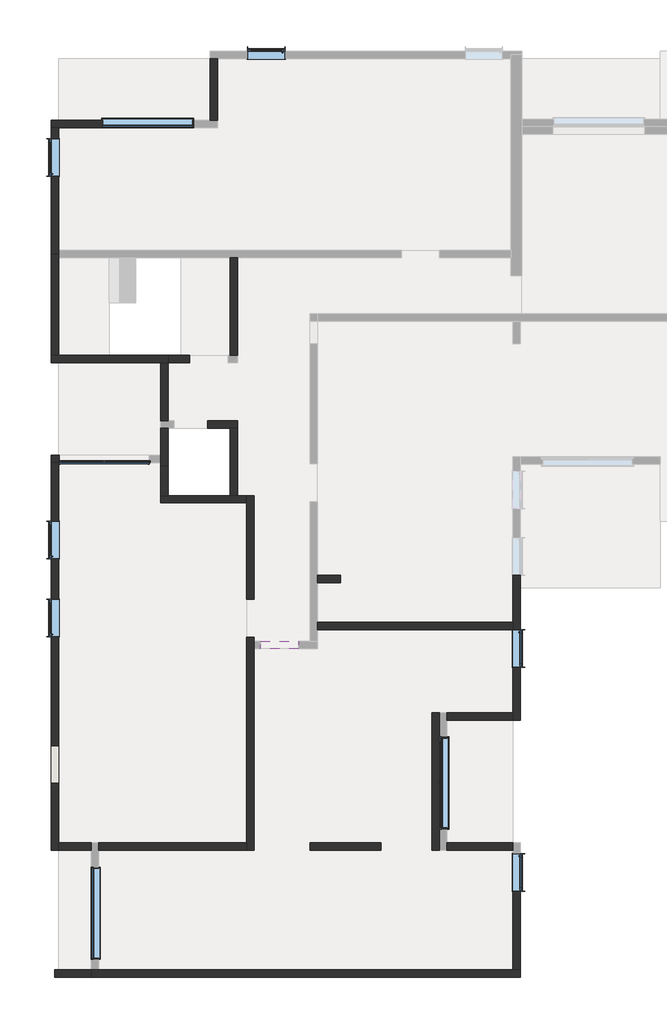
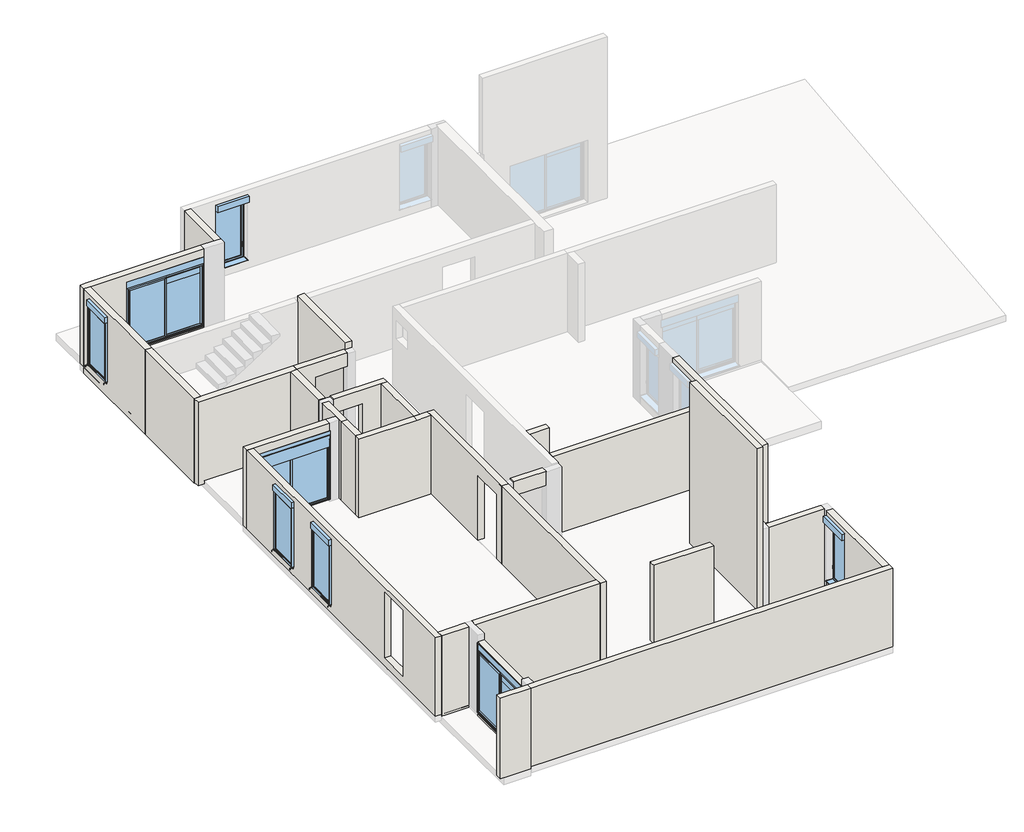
# One storey, part 1 of 3: 31 walls, 10 windows.
"""IFC4 building model written with IfcOpenShell, lengths in millimetres."""

from ifc_helpers import new_model, si_unit, frame, origin, place, context, project, spatial, polyline, outline, extrude, faceted_brep, transform, mapped, element, save
from components import window_b85a0a24, window_200x100_8459d8a5, window_200x100_a15cc3b6, m03_dc1d0546

model = new_model("IFC4")

# Units and contexts
model_context = context("Model", 3, world=origin())
ifc_project = project(units=[si_unit("LENGTHUNIT", "METRE", prefix="MILLI")], contexts=[model_context])

# Site, building, storey
site = spatial("IfcSite", under=ifc_project)
building = spatial("IfcBuilding", under=site)
storey = spatial("IfcBuildingStorey", under=building, Name="06-Plateau 6", Elevation=10400.0)

# Walls
placement = place(None, origin())
element("IfcWall", 1, ObjectType="Voile Banché 20 cm", at=placement, inside=storey, context=model_context, shape_type="SweptSolid", body=[
    extrude(outline(polyline([(-4837.0447796, -2140.1377724), (-887.0447796, -2140.1377724), (-887.0447796, -2340.1377724), (-4837.0447796, -2340.1377724), (-4837.0447796, -2140.1377724)])), frame((0.0, 0.0, 9740.0), z_axis=(0.0, 0.0, 1.0), x_axis=(1.0, 0.0, 0.0)), (0.0, 0.0, 1.0), 2630.0),
])
element("IfcWall", 2, ObjectType="Voile Banché 20 cm", at=placement, inside=storey, context=model_context, shape_type="Brep", body=[
    faceted_brep([(-6107.0447796, 10679.8622276, 9562.7706813), (-5907.0447796, 10679.8622276, 9562.7706813), (-2977.0447796, 10679.8622276, 9562.7706813), (-2977.0447796, 10679.8622276, 9740.0), (-2977.0447796, 10679.8622276, 12370.0), (-3177.0447796, 10679.8622276, 12370.0), (-5907.0447796, 10679.8622276, 12370.0), (-6107.0447796, 10679.8622276, 12370.0), (-6107.0447796, 10679.8622276, 12220.0), (-6107.0447796, 10679.8622276, 9760.0), (-6107.0447796, 10879.8622276, 9562.7706813), (-6107.0447796, 10879.8622276, 12370.0), (-5907.0447796, 10879.8622276, 12370.0), (-2977.0447796, 10879.8622276, 12370.0), (-2977.0447796, 10879.8622276, 9740.0), (-2977.0447796, 10879.8622276, 9562.7706813), (-5907.0447796, 10879.8622276, 9562.7706813)], [[[0, 1, 2, 3, 4, 5, 6, 7, 8, 9]], [[10, 11, 12, 13, 14, 15, 16]], [[2, 1, 0, 10, 16, 15]], [[4, 3, 2, 15, 14, 13]], [[7, 6, 5, 4, 13, 12, 11]], [[0, 9, 8, 7, 11, 10]]]),
])
element("IfcWall", 3, ObjectType="Voile Banché 20 cm", at=placement, inside=storey, context=model_context, shape_type="Brep", body=[
    faceted_brep([(-1377.0447796, 10679.8622276, 12370.0), (-2977.0447796, 10679.8622276, 12370.0), (-2977.0447796, 10679.8622276, 9740.0), (-2397.0447796, 10679.8622276, 9740.0), (-2397.0447796, 10679.8622276, 11910.0), (-1377.0447796, 10679.8622276, 11910.0), (-1377.0447796, 10679.8622276, 12340.0), (-2977.0447796, 10879.8622276, 12370.0), (-1377.0447796, 10879.8622276, 12370.0), (-1377.0447796, 10879.8622276, 12340.0), (-1377.0447796, 10879.8622276, 11910.0), (-2397.0447796, 10879.8622276, 11910.0), (-2397.0447796, 10879.8622276, 9740.0), (-2977.0447796, 10879.8622276, 9740.0)], [[[0, 1, 2, 3, 4, 5, 6]], [[7, 8, 9, 10, 11, 12, 13]], [[2, 13, 12, 3]], [[8, 0, 6, 5, 10, 9]], [[1, 0, 8, 7]], [[4, 11, 10, 5]], [[11, 4, 3, 12]], [[2, 1, 7, 13]]]),
])
element("IfcWall", 4, ObjectType="Voile Banché 20 cm", at=placement, inside=storey, context=model_context, shape_type="Brep", body=[
    faceted_brep([(-3177.0447796, 10679.8622276, 9740.0), (-3177.0447796, 9129.8622276, 9740.0), (-3177.0447796, 9129.8622276, 12340.0), (-3177.0447796, 9129.8622276, 12370.0), (-3177.0447796, 10679.8622276, 12370.0), (-2977.0447796, 10679.8622276, 9740.0), (-2977.0447796, 10679.8622276, 12370.0), (-2977.0447796, 9129.8622276, 12370.0), (-2977.0447796, 9129.8622276, 9740.0)], [[[0, 1, 2, 3, 4]], [[5, 6, 7, 8]], [[1, 0, 5, 8]], [[3, 2, 1, 8, 7]], [[0, 4, 6, 5]], [[4, 3, 7, 6]]]),
])
element("IfcWall", 5, ObjectType="Voile Banché 20 cm", at=placement, inside=storey, context=model_context, shape_type="Brep", body=[
    faceted_brep([(-1127.0447796, 8929.8622276, 9740.0), (-1127.0447796, 8929.8622276, 12370.0), (-1327.0447796, 8929.8622276, 12370.0), (-2817.0447796, 8929.8622276, 12370.0), (-2817.0447796, 8929.8622276, 12340.0), (-2817.0447796, 8929.8622276, 11910.0), (-1917.0447796, 8929.8622276, 11910.0), (-1917.0447796, 8929.8622276, 9740.0), (-1327.0447796, 8929.8622276, 9740.0), (-1127.0447796, 9129.8622276, 12370.0), (-1127.0447796, 9129.8622276, 9740.0), (-1917.0447796, 9129.8622276, 9740.0), (-1917.0447796, 9129.8622276, 11910.0), (-2817.0447796, 9129.8622276, 11910.0), (-2817.0447796, 9129.8622276, 12340.0), (-2817.0447796, 9129.8622276, 12370.0)], [[[0, 1, 2, 3, 4, 5, 6, 7, 8]], [[9, 10, 11, 12, 13, 14, 15]], [[10, 0, 8, 7, 11]], [[3, 2, 1, 9, 15]], [[3, 15, 14, 13, 5, 4]], [[1, 0, 10, 9]], [[12, 6, 5, 13]], [[6, 12, 11, 7]]]),
])
element("IfcWall", 6, ObjectType="Voile Banché 20 cm", at=placement, inside=storey, context=model_context, shape_type="SweptSolid", body=[
    extrude(outline(polyline([(-1327.0447796, 7129.8622276), (-1327.0447796, 8929.8622276), (-1127.0447796, 8929.8622276), (-1127.0447796, 7129.8622276), (-1327.0447796, 7129.8622276)])), frame((0.0, 0.0, 9740.0), z_axis=(0.0, 0.0, 1.0), x_axis=(1.0, 0.0, 0.0)), (0.0, 0.0, 1.0), 2630.0),
])
element("IfcWall", 7, ObjectType="Voile Banché 20 cm", at=placement, inside=storey, context=model_context, shape_type="SweptSolid", body=[
    extrude(outline(polyline([(-2977.0447796, 7909.8622276), (-2977.0447796, 7129.8622276), (-3177.0447796, 7129.8622276), (-3177.0447796, 7909.8622276), (-2977.0447796, 7909.8622276)])), frame((0.0, 0.0, 9740.0), z_axis=(0.0, 0.0, 1.0), x_axis=(1.0, 0.0, 0.0)), (0.0, 0.0, 1.0), 2630.0),
])
element("IfcWall", 8, ObjectType="Voile Banché 20 cm", at=placement, inside=storey, context=model_context, shape_type="Brep", body=[
    faceted_brep([(-6107.0447796, 8009.8622276, 9740.0), (-6107.0447796, -2340.1377724, 9740.0), (-6107.0447796, -2340.1377724, 9760.0), (-6107.0447796, -2340.1377724, 12370.0), (-6107.0447796, 8009.8622276, 12370.0), (-6107.0447796, 3359.8622276, 12210.0), (-6107.0447796, 3359.8622276, 10010.0), (-6107.0447796, 4359.8622276, 10010.0), (-6107.0447796, 4359.8622276, 12210.0), (-6107.0447796, 5439.8622276, 12210.0), (-6107.0447796, 5439.8622276, 10010.0), (-6107.0447796, 6439.8622276, 10010.0), (-6107.0447796, 6439.8622276, 12210.0), (-6107.0447796, -560.1377724, 12210.0), (-6107.0447796, -560.1377724, 10010.0), (-6107.0447796, 439.8622276, 10010.0), (-6107.0447796, 439.8622276, 12210.0), (-5907.0447796, -2340.1377724, 9740.0), (-5907.0447796, 8009.8622276, 9740.0), (-5907.0447796, 8009.8622276, 12370.0), (-5907.0447796, -2140.1377724, 12370.0), (-5907.0447796, -2340.1377724, 12370.0), (-5907.0447796, -2340.1377724, 9760.0), (-5907.0447796, 3359.8622276, 10010.0), (-5907.0447796, 3359.8622276, 12210.0), (-5907.0447796, 4359.8622276, 12210.0), (-5907.0447796, 4359.8622276, 10010.0), (-5907.0447796, 5439.8622276, 10010.0), (-5907.0447796, 5439.8622276, 12210.0), (-5907.0447796, 6439.8622276, 12210.0), (-5907.0447796, 6439.8622276, 10010.0), (-5907.0447796, -560.1377724, 10010.0), (-5907.0447796, -560.1377724, 12210.0), (-5907.0447796, 439.8622276, 12210.0), (-5907.0447796, 439.8622276, 10010.0)], [[[0, 1, 2, 3, 4], [5, 6, 7, 8], [9, 10, 11, 12], [13, 14, 15, 16]], [[17, 18, 19, 20, 21, 22], [23, 24, 25, 26], [27, 28, 29, 30], [31, 32, 33, 34]], [[1, 0, 18, 17]], [[0, 4, 19, 18]], [[3, 2, 1, 17, 22, 21]], [[4, 3, 21, 20, 19]], [[23, 6, 5, 24]], [[24, 5, 8, 25]], [[25, 8, 7, 26]], [[6, 23, 26, 7]], [[27, 10, 9, 28]], [[28, 9, 12, 29]], [[29, 12, 11, 30]], [[10, 27, 30, 11]], [[31, 14, 13, 32]], [[32, 13, 16, 33]], [[33, 16, 15, 34]], [[14, 31, 34, 15]]]),
])
element("IfcWall", 9, ObjectType="Voile Banché 20 cm", at=placement, inside=storey, context=model_context, shape_type="Brep", body=[
    faceted_brep([(-5037.0447796, -5740.1377724, 9740.0), (6432.9552204, -5740.1377724, 9740.0), (6432.9552204, -5740.1377724, 12370.0), (-5037.0447796, -5740.1377724, 12370.0), (-5037.0447796, -5540.1377724, 9740.0), (-5037.0447796, -5540.1377724, 12370.0), (-4837.0447796, -5540.1377724, 12370.0), (6232.9552204, -5540.1377724, 12370.0), (6432.9552204, -5540.1377724, 12370.0), (6432.9552204, -5540.1377724, 9740.0), (-4837.0447796, -5540.1377724, 9740.0)], [[[0, 1, 2, 3]], [[4, 5, 6, 7, 8, 9, 10]], [[1, 0, 4, 10, 9]], [[0, 3, 5, 4]], [[2, 1, 9, 8]], [[3, 2, 8, 7, 6, 5]]]),
])
element("IfcWall", 10, ObjectType="Voile Banché 20 cm", at=placement, inside=storey, context=model_context, shape_type="Brep", body=[
    faceted_brep([(-887.0447796, -2340.1377724, 9740.0), (-887.0447796, -2340.1377724, 12370.0), (-887.0447796, -2140.1377724, 12370.0), (-887.0447796, 3039.8622276, 12370.0), (-887.0447796, 6929.8622276, 12370.0), (-887.0447796, 7129.8622276, 12370.0), (-887.0447796, 7129.8622276, 9740.0), (-887.0447796, 6929.8622276, 9740.0), (-887.0447796, 4359.8622276, 9740.0), (-887.0447796, 4359.8622276, 11910.0), (-887.0447796, 3339.8622276, 11910.0), (-887.0447796, 3339.8622276, 9740.0), (-887.0447796, -2140.1377724, 9740.0), (-687.0447796, -2340.1377724, 12370.0), (-687.0447796, -2340.1377724, 9740.0), (-687.0447796, 3039.8622276, 9740.0), (-687.0447796, 3239.8622276, 9740.0), (-687.0447796, 3339.8622276, 9740.0), (-687.0447796, 3339.8622276, 11910.0), (-687.0447796, 4359.8622276, 11910.0), (-687.0447796, 4359.8622276, 9740.0), (-687.0447796, 7129.8622276, 9740.0), (-687.0447796, 7129.8622276, 12370.0), (-687.0447796, 3039.8622276, 12370.0)], [[[0, 1, 2, 3, 4, 5, 6, 7, 8, 9, 10, 11, 12]], [[13, 14, 15, 16, 17, 18, 19, 20, 21, 22, 23]], [[14, 0, 12, 11, 17, 16, 15]], [[6, 21, 20, 8, 7]], [[1, 0, 14, 13]], [[9, 19, 18, 10]], [[19, 9, 8, 20]], [[10, 18, 17, 11]], [[6, 5, 22, 21]], [[5, 4, 3, 23, 22]], [[3, 2, 1, 13, 23]]]),
])
element("IfcWall", 11, ObjectType="Voile Banché 20 cm", at=placement, inside=storey, context=model_context, shape_type="Brep", body=[
    faceted_brep([(-1127.0447796, 10879.8622276, 9740.0), (-1127.0447796, 13479.8622276, 9740.0), (-1127.0447796, 13479.8622276, 12570.0), (-1127.0447796, 10879.8622276, 12570.0), (-1127.0447796, 10879.8622276, 12340.0), (-1327.0447796, 10879.8622276, 9740.0), (-1327.0447796, 10879.8622276, 12570.0), (-1327.0447796, 13479.8622276, 12570.0), (-1327.0447796, 13479.8622276, 9740.0)], [[[0, 1, 2, 3, 4]], [[5, 6, 7, 8]], [[1, 0, 5, 8]], [[3, 2, 7, 6]], [[0, 4, 3, 6, 5]], [[2, 1, 8, 7]]]),
])
element("IfcWall", 12, ObjectType="Voile Banché 20 cm", at=placement, inside=storey, context=model_context, shape_type="Brep", body=[
    faceted_brep([(-5037.0447796, -2140.1377724, 9670.0), (-5907.0447796, -2140.1377724, 9670.0), (-5907.0447796, -2140.1377724, 12370.0), (-5037.0447796, -2140.1377724, 12370.0), (-5037.0447796, -2140.1377724, 9740.0), (-5037.0447796, -2340.1377724, 9670.0), (-5037.0447796, -2340.1377724, 12370.0), (-5907.0447796, -2340.1377724, 12370.0), (-5907.0447796, -2340.1377724, 9740.0), (-5907.0447796, -2340.1377724, 9670.0)], [[[0, 1, 2, 3, 4]], [[5, 6, 7, 8, 9]], [[1, 0, 5, 9]], [[0, 4, 3, 6, 5]], [[2, 1, 9, 8, 7]], [[3, 2, 7, 6]]]),
])
element("IfcWall", 13, ObjectType="Voile Banché 20 cm", at=placement, inside=storey, context=model_context, shape_type="Brep", body=[
    faceted_brep([(-6007.0447796, -5740.1377724, 9670.0), (-5907.0447796, -5740.1377724, 9670.0), (-5037.0447796, -5740.1377724, 9670.0), (-5037.0447796, -5740.1377724, 9740.0), (-5037.0447796, -5740.1377724, 12370.0), (-6007.0447796, -5740.1377724, 12370.0), (-6007.0447796, -5740.1377724, 9760.0), (-6007.0447796, -5540.1377724, 9670.0), (-6007.0447796, -5540.1377724, 9760.0), (-6007.0447796, -5540.1377724, 12370.0), (-5037.0447796, -5540.1377724, 12370.0), (-5037.0447796, -5540.1377724, 9740.0), (-5037.0447796, -5540.1377724, 9670.0), (-5907.0447796, -5540.1377724, 9670.0)], [[[0, 1, 2, 3, 4, 5, 6]], [[7, 8, 9, 10, 11, 12, 13]], [[2, 1, 0, 7, 13, 12]], [[4, 3, 2, 12, 11, 10]], [[0, 6, 5, 9, 8, 7]], [[5, 4, 10, 9]]]),
])
element("IfcWall", 14, ObjectType="Voile Banché 20 cm", at=placement, inside=storey, context=model_context, shape_type="Brep", body=[
    faceted_brep([(812.9552204, -2340.1377724, 9740.0), (2712.9552204, -2340.1377724, 9740.0), (2712.9552204, -2340.1377724, 12370.0), (812.9552204, -2340.1377724, 12370.0), (812.9552204, -2140.1377724, 9740.0), (812.9552204, -2140.1377724, 12250.0), (812.9552204, -2140.1377724, 12370.0), (1012.9552204, -2140.1377724, 12370.0), (2712.9552204, -2140.1377724, 12370.0), (2712.9552204, -2140.1377724, 9740.0), (812.9552204, -2240.1377724, 12370.0)], [[[0, 1, 2, 3]], [[4, 5, 6, 7, 8, 9]], [[1, 0, 4, 9]], [[2, 1, 9, 8]], [[3, 2, 8, 7, 6, 10]], [[0, 3, 10, 6, 5, 4]]]),
])
element("IfcWall", 15, ObjectType="Voile Banché 20 cm", at=placement, inside=storey, context=model_context, shape_type="Brep", body=[
    faceted_brep([(4478.3552204, -2340.1377724, 9670.0), (6233.3552204, -2340.1377724, 9670.0), (6233.3552204, -2340.1377724, 9740.0), (6233.3552204, -2340.1377724, 12370.0), (6232.9552204, -2340.1377724, 12370.0), (4478.3552204, -2340.1377724, 12370.0), (4478.3552204, -2340.1377724, 9740.0), (4478.3552204, -2140.1377724, 9670.0), (4478.3552204, -2140.1377724, 12370.0), (6232.9552204, -2140.1377724, 12370.0), (6233.3552204, -2140.1377724, 12370.0), (6233.3552204, -2140.1377724, 9740.0), (6233.3552204, -2140.1377724, 9670.0), (6232.9552204, -2140.1377724, 9670.0), (6233.3552204, -2142.5306807, 9670.0)], [[[0, 1, 2, 3, 4, 5, 6]], [[7, 8, 9, 10, 11, 12, 13]], [[1, 0, 7, 13, 12, 14]], [[3, 2, 1, 14, 12, 11, 10]], [[0, 6, 5, 8, 7]], [[5, 4, 3, 10, 9, 8]]]),
])
element("IfcWall", 16, ObjectType="Voile Banché 20 cm", at=placement, inside=storey, context=model_context, shape_type="SweptSolid", body=[
    extrude(outline(polyline([(6232.9552204, 1129.8622276), (4478.3552204, 1129.8622276), (4478.3552204, 1329.8622276), (6232.9552204, 1329.8622276), (6232.9552204, 1129.8622276)])), frame((0.0, 0.0, 9740.0), z_axis=(0.0, 0.0, 1.0), x_axis=(1.0, 0.0, 0.0)), (0.0, 0.0, 1.0), 2630.0),
])
element("IfcWall", 17, ObjectType="Voile Banché 20 cm", at=placement, inside=storey, context=model_context, shape_type="Brep", body=[
    faceted_brep([(-6107.0447796, 8009.8622276, 12370.0), (-6107.0447796, 8009.8622276, 9740.0), (-5907.0447796, 8009.8622276, 9740.0), (-5887.0447796, 8009.8622276, 9740.0), (-5887.0447796, 8009.8622276, 9760.0), (-5887.0447796, 8009.8622276, 9810.0), (-5917.0447796, 8009.8622276, 9810.0), (-5917.0447796, 8009.8622276, 11890.0), (-5917.0447796, 8009.8622276, 12110.0), (-3487.0447796, 8009.8622276, 12110.0), (-3487.0447796, 8009.8622276, 12370.0), (-5907.0447796, 8009.8622276, 12370.0), (-6107.0447796, 8209.8622276, 9740.0), (-6107.0447796, 8209.8622276, 9760.0), (-6107.0447796, 8209.8622276, 12370.0), (-3487.0447796, 8209.8622276, 12370.0), (-3487.0447796, 8209.8622276, 12110.0), (-5917.0447796, 8209.8622276, 12110.0), (-5917.0447796, 8209.8622276, 11860.0), (-5887.0447796, 8209.8622276, 11860.0), (-5887.0447796, 8209.8622276, 9740.0), (-5887.0447796, 8059.8622276, 11860.0), (-5917.0447796, 8059.8622276, 11860.0), (-5917.0447796, 8059.8622276, 9810.0), (-5897.0447796, 8059.8622276, 9810.0), (-5887.0447796, 8059.8622276, 9810.0)], [[[0, 1, 2, 3, 4, 5, 6, 7, 8, 9, 10, 11]], [[12, 13, 14, 15, 16, 17, 18, 19, 20]], [[1, 12, 20, 3, 2]], [[15, 10, 9, 16]], [[1, 0, 14, 13, 12]], [[0, 11, 10, 15, 14]], [[21, 22, 23, 24, 25]], [[23, 22, 18, 17, 8, 7, 6]], [[24, 23, 6, 5, 25]], [[21, 25, 5, 4, 3, 20, 19]], [[8, 17, 16, 9]], [[22, 21, 19, 18]]]),
])
element("IfcWall", 18, ObjectType="Voile Banché 20 cm", at=placement, inside=storey, context=model_context, shape_type="Brep", body=[
    faceted_brep([(-887.0447796, 7129.8622276, 9740.0), (-1127.0447796, 7129.8622276, 9740.0), (-1327.0447796, 7129.8622276, 9740.0), (-2977.0447796, 7129.8622276, 9740.0), (-3177.0447796, 7129.8622276, 9740.0), (-3177.0447796, 7129.8622276, 12370.0), (-2977.0447796, 7129.8622276, 12370.0), (-1327.0447796, 7129.8622276, 12370.0), (-1127.0447796, 7129.8622276, 12370.0), (-887.0447796, 7129.8622276, 12370.0), (-887.0447796, 6929.8622276, 9740.0), (-887.0447796, 6929.8622276, 12370.0), (-1327.0447796, 6929.8622276, 12370.0), (-3177.0447796, 6929.8622276, 12370.0), (-3177.0447796, 6929.8622276, 9740.0)], [[[0, 1, 2, 3, 4, 5, 6, 7, 8, 9]], [[10, 11, 12, 13, 14]], [[4, 3, 2, 1, 0, 10, 14]], [[5, 4, 14, 13]], [[0, 9, 11, 10]], [[9, 8, 7, 12, 11]], [[7, 6, 5, 13, 12]]]),
])
element("IfcWall", 19, ObjectType="Voile Banché 20 cm", at=placement, inside=storey, context=model_context, shape_type="Brep", body=[
    faceted_brep([(-512.0447796, 3039.8622276, 11910.0), (507.9552204, 3039.8622276, 11910.0), (507.9552204, 3039.8622276, 12340.0), (507.9552204, 3039.8622276, 12370.0), (-512.0447796, 3039.8622276, 12370.0), (-512.0447796, 3039.8622276, 12340.0), (-512.0447796, 3239.8622276, 11910.0), (-512.0447796, 3239.8622276, 12340.0), (-512.0447796, 3239.8622276, 12370.0), (507.9552204, 3239.8622276, 12370.0), (507.9552204, 3239.8622276, 12340.0), (507.9552204, 3239.8622276, 11910.0)], [[[0, 1, 2, 3, 4, 5]], [[6, 7, 8, 9, 10, 11]], [[1, 0, 6, 11]], [[3, 2, 1, 11, 10, 9]], [[4, 3, 9, 8]], [[0, 5, 4, 8, 7, 6]]]),
])
element("IfcWall", 20, ObjectType="Voile Banché 20 cm", at=placement, inside=storey, context=model_context, shape_type="Brep", body=[
    faceted_brep([(4478.3552204, 677.5337635, 12370.0), (4478.3552204, -1770.1377724, 12370.0), (4478.3552204, -1770.1377724, 12110.0), (4478.3552204, 649.8622276, 12110.0), (4478.3552204, 677.5337635, 12110.0), (4278.3552204, -1770.1377724, 12370.0), (4278.3552204, 677.5337635, 12370.0), (4278.3552204, 677.5337635, 12110.0), (4278.3552204, 649.8622276, 12110.0), (4278.3552204, -1770.1377724, 12110.0)], [[[0, 1, 2, 3, 4]], [[5, 6, 7, 8, 9]], [[6, 0, 4, 7]], [[1, 5, 9, 2]], [[1, 0, 6, 5]], [[4, 3, 2, 9, 8, 7]]]),
    faceted_brep([(4478.3552204, -1770.1377724, 11860.0), (4478.3552204, -1770.1377724, 9765.0695702), (4478.3552204, -1749.2468255, 9765.0695702), (4478.3552204, -1749.2468255, 11860.0), (4338.3552204, -1770.1377724, 11860.0), (4338.3552204, -1770.1377724, 11870.0), (4328.3552204, -1770.1377724, 11870.0), (4328.3552204, -1770.1377724, 9810.0), (4338.3552204, -1770.1377724, 9810.0), (4338.3552204, -1770.1377724, 9779.2643667), (4328.3552204, -1759.2468255, 11870.0), (4328.3552204, -1759.2468255, 9810.0), (4338.3552204, -1749.2468255, 9779.2643667), (4338.3552204, -1749.2468255, 11860.0), (4338.3552204, -1759.2468255, 9810.0), (4338.3552204, -1759.2468255, 11860.0), (4338.3552204, -1759.2468255, 11870.0)], [[[0, 1, 2, 3]], [[1, 0, 4, 5, 6, 7, 8, 9]], [[10, 11, 7, 6]], [[12, 13, 3, 2]], [[13, 12, 9, 8, 14, 15]], [[11, 10, 16, 15, 14]], [[12, 2, 1, 9]], [[11, 14, 8, 7]], [[16, 10, 6, 5]], [[15, 16, 5, 4]], [[3, 13, 15, 4, 0]]]),
    faceted_brep([(4478.3552204, 677.5337635, 9765.0695702), (4478.3552204, 677.5337635, 11860.0), (4478.3552204, 650.7531745, 11860.0), (4478.3552204, 650.7531745, 9765.0695702), (4338.3552204, 677.5337635, 9779.2643667), (4338.3552204, 677.5337635, 9810.0), (4328.3552204, 677.5337635, 9810.0), (4328.3552204, 677.5337635, 11870.0), (4338.3552204, 677.5337635, 11870.0), (4338.3552204, 677.5337635, 11860.0), (4328.3552204, 660.7531745, 9810.0), (4328.3552204, 660.7531745, 11870.0), (4338.3552204, 650.7531745, 11860.0), (4338.3552204, 650.7531745, 9779.2643667), (4338.3552204, 660.7531745, 11860.0), (4338.3552204, 660.7531745, 9810.0), (4338.3552204, 660.7531745, 11870.0)], [[[0, 1, 2, 3]], [[1, 0, 4, 5, 6, 7, 8, 9]], [[10, 11, 7, 6]], [[2, 12, 13, 3]], [[13, 12, 14, 15, 5, 4]], [[11, 10, 15, 14, 16]], [[3, 13, 4, 0]], [[15, 10, 6, 5]], [[11, 16, 8, 7]], [[16, 14, 9, 8]], [[12, 2, 1, 9, 14]]]),
    faceted_brep([(4278.3552204, 677.5337635, 9740.0), (4278.3552204, -1770.1377724, 9740.0), (4278.3552204, -1770.1377724, 9780.0), (4278.3552204, 649.8622276, 9780.0), (4278.3552204, 677.5337635, 9780.0), (4318.3552204, 677.5337635, 9740.0), (4318.3552204, 649.8622276, 9740.0), (4318.3552204, -1770.1377724, 9740.0)], [[[0, 1, 2, 3, 4]], [[1, 0, 5, 6, 7]], [[0, 4, 5]], [[2, 1, 7]], [[4, 3, 2, 7, 6, 5]]]),
])
element("IfcWall", 21, ObjectType="Voile Banché 20 cm", at=placement, inside=storey, context=model_context, shape_type="Brep", body=[
    faceted_brep([(-2977.0447796, 7909.8622276, 9740.0), (-2977.0447796, 8929.8622276, 9740.0), (-2977.0447796, 8929.8622276, 12370.0), (-2977.0447796, 7909.8622276, 12370.0), (-3177.0447796, 7909.8622276, 9740.0), (-3177.0447796, 7909.8622276, 12370.0), (-3177.0447796, 8009.8622276, 12370.0), (-3177.0447796, 8209.8622276, 12370.0), (-3177.0447796, 8929.8622276, 12370.0), (-3177.0447796, 8929.8622276, 12340.0), (-3177.0447796, 8929.8622276, 9740.0), (-3177.0447796, 8209.8622276, 9740.0), (-3177.0447796, 8009.8622276, 9740.0)], [[[0, 1, 2, 3]], [[4, 5, 6, 7, 8, 9, 10, 11, 12]], [[1, 0, 4, 12, 11, 10]], [[2, 1, 10, 9, 8]], [[0, 3, 5, 4]], [[3, 2, 8, 7, 6, 5]]]),
])
element("IfcWall", 22, ObjectType="Acrotère BA 20 cm", at=placement, inside=storey, context=model_context, shape_type="Brep", body=[
    faceted_brep([(-5037.0447796, -2820.1377724, 9670.0), (-5037.0447796, -5240.1377724, 9670.0), (-5037.0447796, -5240.1377724, 9780.0), (-5037.0447796, -2820.1377724, 9780.0), (-4837.0447796, -5240.1377724, 9670.0), (-4837.0447796, -2820.1377724, 9670.0), (-4837.0447796, -2820.1377724, 9710.0), (-4837.0447796, -5240.1377724, 9710.0), (-4967.0447796, -5240.1377724, 9710.0), (-4967.0447796, -2820.1377724, 9710.0), (-4977.0447796, -5230.1377724, 9710.0), (-4977.0447796, -2830.1377724, 9710.0), (-4977.0447796, -2830.1377724, 9720.0), (-4977.0447796, -5230.1377724, 9720.0), (-4967.0447796, -2830.1377724, 9710.0), (-4967.0447796, -5230.1377724, 9710.0)], [[[0, 1, 2, 3]], [[4, 5, 6, 7]], [[1, 0, 5, 4]], [[1, 4, 7, 8, 2]], [[5, 0, 3, 9, 6]], [[10, 11, 12, 13]], [[12, 11, 14]], [[11, 10, 15, 8, 7, 6, 9, 14]], [[10, 13, 15]], [[13, 12, 14, 9, 3, 2, 8, 15]]]),
    faceted_brep([(-5037.0447796, -5240.1377724, 12151.9898847), (-5037.0447796, -2820.1377724, 12151.9898847), (-5037.0447796, -2820.1377724, 12110.0), (-5037.0447796, -5240.1377724, 12110.0), (-4837.0447796, -2820.1377724, 12151.9898847), (-4837.0447796, -5240.1377724, 12151.9898847), (-4837.0447796, -5240.1377724, 12110.0), (-4837.0447796, -2820.1377724, 12110.0)], [[[0, 1, 2, 3]], [[4, 5, 6, 7]], [[5, 0, 3, 6]], [[1, 0, 5, 4]], [[1, 4, 7, 2]], [[3, 2, 7, 6]]]),
    faceted_brep([(-4837.0447796, -2820.1377724, 9765.0695702), (-4837.0447796, -2820.1377724, 11860.0), (-4837.0447796, -2830.1377724, 11860.0), (-4837.0447796, -2830.1377724, 9765.0695702), (-4977.0447796, -2820.1377724, 9779.2643667), (-4977.0447796, -2820.1377724, 9810.0), (-4977.0447796, -2820.1377724, 11860.0), (-4977.0447796, -2830.1377724, 11860.0), (-4977.0447796, -2830.1377724, 9779.2643667)], [[[0, 1, 2, 3]], [[1, 0, 4, 5, 6]], [[2, 7, 8, 3]], [[8, 7, 6, 5, 4]], [[3, 8, 4, 0]], [[7, 2, 1, 6]]]),
    faceted_brep([(-4837.0447796, -5240.1377724, 11860.0), (-4837.0447796, -5240.1377724, 9765.0695702), (-4837.0447796, -5230.1377724, 9765.0695702), (-4837.0447796, -5230.1377724, 11860.0), (-4977.0447796, -5240.1377724, 11860.0), (-4977.0447796, -5240.1377724, 9810.0), (-4977.0447796, -5240.1377724, 9779.2643667), (-4977.0447796, -5230.1377724, 9779.2643667), (-4977.0447796, -5230.1377724, 11860.0)], [[[0, 1, 2, 3]], [[1, 0, 4, 5, 6]], [[7, 8, 3, 2]], [[8, 7, 6, 5, 4]], [[7, 2, 1, 6]], [[3, 8, 4, 0]]]),
])
element("IfcWall", 23, ObjectType="Voile Banché 20 cm", at=placement, inside=storey, context=model_context, shape_type="Brep", body=[
    faceted_brep([(4078.3552204, 1329.8622276, 9740.0), (4078.3552204, -2340.1377724, 9740.0), (4078.3552204, -2340.1377724, 15140.0), (4078.3552204, 1329.8622276, 15140.0), (4278.3552204, 1329.8622276, 9740.0), (4278.3552204, 1329.8622276, 12370.0), (4278.3552204, 1329.8622276, 15140.0), (4278.3552204, -2340.1377724, 15140.0), (4278.3552204, -2340.1377724, 12370.0), (4278.3552204, -2340.1377724, 9740.0), (4278.3552204, -1770.1377724, 9740.0), (4278.3552204, 677.5337635, 9740.0)], [[[0, 1, 2, 3]], [[4, 5, 6, 7, 8, 9, 10, 11]], [[1, 0, 4, 11, 10, 9]], [[2, 1, 9, 8, 7]], [[3, 2, 7, 6]], [[0, 3, 6, 5, 4]]]),
])
element("IfcWall", 24, ObjectType="Poutre voile 20cm", at=placement, inside=storey, context=model_context, shape_type="Brep", body=[
    faceted_brep([(-6107.0447796, 16949.8622276, 9740.0), (-2297.0447796, 16949.8622276, 9740.0), (-2297.0447796, 16949.8622276, 9780.0), (-4757.0447796, 16949.8622276, 9780.0), (-4757.0447796, 16949.8622276, 9810.0), (-4757.0447796, 16949.8622276, 11890.0), (-4757.0447796, 16949.8622276, 12110.0), (-2297.0447796, 16949.8622276, 12110.0), (-2297.0447796, 16949.8622276, 12370.0), (-5907.0447796, 16949.8622276, 12370.0), (-6107.0447796, 16949.8622276, 12370.0), (-6107.0447796, 17149.8622276, 12370.0), (-5907.0447796, 17149.8622276, 12370.0), (-2297.0447796, 17149.8622276, 12370.0), (-2297.0447796, 17149.8622276, 12110.0), (-4757.0447796, 17149.8622276, 12110.0), (-4757.0447796, 17149.8622276, 11860.0), (-4727.0447796, 17149.8622276, 11860.0), (-4727.0447796, 17149.8622276, 9765.0695702), (-4757.0447796, 17149.8622276, 9765.0695702), (-4757.0447796, 17149.8622276, 9740.0), (-6107.0447796, 17149.8622276, 9740.0), (-6107.0447796, 17149.8622276, 10410.0), (-6107.0447796, 17149.8622276, 12210.0), (-4757.0447796, 16989.8622276, 9740.0), (-2297.0447796, 16989.8622276, 9740.0), (-4737.0447796, 16999.8622276, 9810.0), (-4737.0447796, 16999.8622276, 11870.0), (-4757.0447796, 16999.8622276, 11870.0), (-4757.0447796, 16999.8622276, 9810.0), (-4757.0447796, 17009.8622276, 11870.0), (-4757.0447796, 17009.8622276, 11860.0), (-4757.0447796, 17009.8622276, 9779.2643667), (-4757.0447796, 17009.8622276, 9810.0), (-4727.0447796, 17009.8622276, 11860.0), (-4727.0447796, 17009.8622276, 9779.2643667), (-4737.0447796, 17009.8622276, 11860.0), (-4737.0447796, 17009.8622276, 9810.0), (-4737.0447796, 17009.8622276, 11870.0)], [[[0, 1, 2, 3, 4, 5, 6, 7, 8, 9, 10]], [[11, 12, 13, 14, 15, 16, 17, 18, 19, 20, 21, 22, 23]], [[1, 0, 21, 20, 24, 25]], [[13, 8, 7, 14]], [[2, 1, 25]], [[10, 9, 8, 13, 12, 11]], [[26, 27, 28, 29]], [[29, 28, 30, 31, 16, 15, 6, 5, 4, 3, 24, 20, 19, 32, 33]], [[17, 34, 35, 18]], [[33, 32, 35, 34, 36, 37]], [[27, 26, 37, 36, 38]], [[24, 3, 2, 25]], [[35, 32, 19, 18]], [[26, 29, 33, 37]], [[6, 15, 14, 7]], [[28, 27, 38, 30]], [[31, 30, 38, 36]], [[16, 31, 36, 34, 17]], [[0, 10, 11, 23, 22, 21]]]),
    faceted_brep([(-2297.0447796, 17149.8622276, 11860.0), (-2297.0447796, 17149.8622276, 9765.0695702), (-2327.0447796, 17149.8622276, 9765.0695702), (-2327.0447796, 17149.8622276, 11860.0), (-2297.0447796, 17009.8622276, 11860.0), (-2297.0447796, 17009.8622276, 11870.0), (-2297.0447796, 16999.8622276, 11870.0), (-2297.0447796, 16999.8622276, 9810.0), (-2297.0447796, 17009.8622276, 9810.0), (-2297.0447796, 17009.8622276, 9779.2643667), (-2317.0447796, 16999.8622276, 11870.0), (-2317.0447796, 16999.8622276, 9810.0), (-2327.0447796, 17009.8622276, 9779.2643667), (-2327.0447796, 17009.8622276, 11860.0), (-2317.0447796, 17009.8622276, 9810.0), (-2317.0447796, 17009.8622276, 11860.0), (-2317.0447796, 17009.8622276, 11870.0)], [[[0, 1, 2, 3]], [[1, 0, 4, 5, 6, 7, 8, 9]], [[10, 11, 7, 6]], [[12, 13, 3, 2]], [[13, 12, 9, 8, 14, 15]], [[11, 10, 16, 15, 14]], [[9, 12, 2, 1]], [[7, 11, 14, 8]], [[10, 6, 5, 16]], [[15, 16, 5, 4]], [[3, 13, 15, 4, 0]]]),
])
element("IfcWall", 25, ObjectType="Poutre voile 20cm", at=placement, inside=storey, context=model_context, shape_type="SweptSolid", body=[
    extrude(outline(polyline([(-1657.0447796, 18799.8622276), (-1657.0447796, 17149.8622276), (-1857.0447796, 17149.8622276), (-1857.0447796, 18799.8622276), (-1657.0447796, 18799.8622276)])), frame((0.0, 0.0, 9740.0), z_axis=(0.0, 0.0, 1.0), x_axis=(1.0, 0.0, 0.0)), (0.0, 0.0, 1.0), 2630.0),
])
element("IfcWall", 26, ObjectType="Poutre voile 20cm", at=placement, inside=storey, context=model_context, shape_type="Brep", body=[
    faceted_brep([(6432.9552204, -5540.1377724, 9670.0), (6432.9552204, -2440.1377724, 9670.0), (6432.9552204, -2440.1377724, 9740.0), (6432.9552204, -2440.1377724, 10010.0), (6432.9552204, -3440.1377724, 10010.0), (6432.9552204, -3440.1377724, 12210.0), (6432.9552204, -2440.1377724, 12210.0), (6432.9552204, -2440.1377724, 12370.0), (6432.9552204, -5540.1377724, 12370.0), (6432.9552204, -5540.1377724, 9740.0), (6232.9552204, -2440.1377724, 9670.0), (6232.9552204, -5540.1377724, 9670.0), (6232.9552204, -5540.1377724, 12370.0), (6232.9552204, -2440.1377724, 12370.0), (6232.9552204, -2440.1377724, 12210.0), (6232.9552204, -3440.1377724, 12210.0), (6232.9552204, -3440.1377724, 10010.0), (6232.9552204, -2440.1377724, 10010.0), (6232.9552204, -2440.1377724, 9740.0)], [[[0, 1, 2, 3, 4, 5, 6, 7, 8, 9]], [[10, 11, 12, 13, 14, 15, 16, 17, 18]], [[1, 0, 11, 10]], [[1, 10, 18, 17, 3, 2]], [[13, 7, 6, 14]], [[0, 9, 8, 12, 11]], [[8, 7, 13, 12]], [[5, 15, 14, 6]], [[15, 5, 4, 16]], [[16, 4, 3, 17]]]),
])
element("IfcWall", 27, ObjectType="Poutre voile 20cm", at=placement, inside=storey, context=model_context, shape_type="Brep", body=[
    faceted_brep([(1012.9552204, 3539.8622276, 9740.0), (6232.9552204, 3539.8622276, 9740.0), (6232.9552204, 3539.8622276, 10010.0), (6232.9552204, 3539.8622276, 12210.0), (6232.9552204, 3539.8622276, 12370.0), (1012.9552204, 3539.8622276, 12370.0), (1012.9552204, 3739.8622276, 9740.0), (1012.9552204, 3739.8622276, 12370.0), (6232.9552204, 3739.8622276, 12370.0), (6232.9552204, 3739.8622276, 9740.0)], [[[0, 1, 2, 3, 4, 5]], [[6, 7, 8, 9]], [[1, 0, 6, 9]], [[0, 5, 7, 6]], [[5, 4, 8, 7]], [[4, 3, 2, 1, 9, 8]]]),
])
element("IfcWall", 28, ObjectType="Poutre voile 20cm", at=placement, inside=storey, context=model_context, shape_type="Brep", body=[
    faceted_brep([(6432.9552204, 1129.8622276, 9740.0), (6432.9552204, 5999.8622276, 9740.0), (6432.9552204, 5999.8622276, 10010.0), (6432.9552204, 4999.8622276, 10010.0), (6432.9552204, 4999.8622276, 12210.0), (6432.9552204, 5999.8622276, 12210.0), (6432.9552204, 5999.8622276, 12370.0), (6432.9552204, 1129.8622276, 12370.0), (6432.9552204, 1129.8622276, 12220.0), (6432.9552204, 1129.8622276, 9760.0), (6432.9552204, 3539.8622276, 12210.0), (6432.9552204, 3539.8622276, 10010.0), (6432.9552204, 2539.8622276, 10010.0), (6432.9552204, 2539.8622276, 12210.0), (6232.9552204, 5999.8622276, 9740.0), (6232.9552204, 3739.8622276, 9740.0), (6232.9552204, 3539.8622276, 9740.0), (6232.9552204, 1329.8622276, 9740.0), (6232.9552204, 1129.8622276, 9740.0), (6232.9552204, 1129.8622276, 9760.0), (6232.9552204, 1129.8622276, 12220.0), (6232.9552204, 1129.8622276, 12370.0), (6232.9552204, 1329.8622276, 12370.0), (6232.9552204, 3539.8622276, 12370.0), (6232.9552204, 3739.8622276, 12370.0), (6232.9552204, 5999.8622276, 12370.0), (6232.9552204, 5999.8622276, 12210.0), (6232.9552204, 4999.8622276, 12210.0), (6232.9552204, 4999.8622276, 10010.0), (6232.9552204, 5999.8622276, 10010.0), (6232.9552204, 3539.8622276, 10010.0), (6232.9552204, 3539.8622276, 12210.0), (6232.9552204, 2539.8622276, 12210.0), (6232.9552204, 2539.8622276, 10010.0)], [[[0, 1, 2, 3, 4, 5, 6, 7, 8, 9], [10, 11, 12, 13]], [[14, 15, 16, 17, 18, 19, 20, 21, 22, 23, 24, 25, 26, 27, 28, 29], [30, 31, 32, 33]], [[1, 0, 18, 17, 16, 15, 14]], [[1, 14, 29, 2]], [[25, 6, 5, 26]], [[0, 9, 8, 7, 21, 20, 19, 18]], [[7, 6, 25, 24, 23, 22, 21]], [[4, 27, 26, 5]], [[27, 4, 3, 28]], [[28, 3, 2, 29]], [[30, 11, 10, 31]], [[31, 10, 13, 32]], [[32, 13, 12, 33]], [[11, 30, 33, 12]]]),
])
element("IfcWall", 29, ObjectType="Poutre voile 20cm", at=placement, inside=storey, context=model_context, shape_type="Brep", body=[
    faceted_brep([(1012.9552204, 4799.8622276, 9740.0), (1632.9552204, 4799.8622276, 9740.0), (1632.9552204, 4799.8622276, 12370.0), (1012.9552204, 4799.8622276, 12370.0), (1012.9552204, 4999.8622276, 9740.0), (1012.9552204, 4999.8622276, 9940.0), (1012.9552204, 4999.8622276, 10540.0), (1012.9552204, 4999.8622276, 12370.0), (1632.9552204, 4999.8622276, 12370.0), (1632.9552204, 4999.8622276, 9740.0)], [[[0, 1, 2, 3]], [[4, 5, 6, 7, 8, 9]], [[1, 0, 4, 9]], [[2, 1, 9, 8]], [[0, 3, 7, 6, 5, 4]], [[3, 2, 8, 7]]]),
])
element("IfcWall", 30, ObjectType="Voile", at=placement, inside=storey, context=model_context, shape_type="Brep", body=[
    faceted_brep([(-6107.0447796, 16949.8622276, 9540.0), (-6107.0447796, 13579.8622276, 9540.0), (-6107.0447796, 13579.8622276, 12370.0), (-6107.0447796, 16949.8622276, 12370.0), (-6107.0447796, 16949.8622276, 9740.0), (-6107.0447796, 15659.8622276, 12210.0), (-6107.0447796, 15659.8622276, 10010.0), (-6107.0447796, 16659.8622276, 10010.0), (-6107.0447796, 16659.8622276, 12210.0), (-5907.0447796, 13579.8622276, 9540.0), (-5907.0447796, 16949.8622276, 9540.0), (-5907.0447796, 16949.8622276, 9740.0), (-5907.0447796, 16949.8622276, 12370.0), (-5907.0447796, 13679.8622276, 12370.0), (-5907.0447796, 13579.8622276, 12370.0), (-5907.0447796, 15659.8622276, 10010.0), (-5907.0447796, 15659.8622276, 12210.0), (-5907.0447796, 16659.8622276, 12210.0), (-5907.0447796, 16659.8622276, 10010.0)], [[[0, 1, 2, 3, 4], [5, 6, 7, 8]], [[9, 10, 11, 12, 13, 14], [15, 16, 17, 18]], [[1, 0, 10, 9]], [[1, 9, 14, 2]], [[3, 2, 14, 13, 12]], [[15, 6, 5, 16]], [[16, 5, 8, 17]], [[17, 8, 7, 18]], [[6, 15, 18, 7]], [[0, 4, 3, 12, 11, 10]]]),
])
element("IfcWall", 31, ObjectType="Voile", at=placement, inside=storey, context=model_context, shape_type="Brep", body=[
    faceted_brep([(-6107.0447796, 13579.8622276, 12370.0), (-6107.0447796, 13579.8622276, 9540.0), (-6107.0447796, 13579.8622276, 9539.7633787), (-6107.0447796, 10879.8622276, 9539.7633787), (-6107.0447796, 10879.8622276, 9540.0), (-6107.0447796, 10879.8622276, 9562.7706813), (-6107.0447796, 10879.8622276, 12370.0), (-5907.0447796, 13579.8622276, 9539.7633787), (-5907.0447796, 13579.8622276, 9540.0), (-5907.0447796, 13579.8622276, 12370.0), (-5907.0447796, 13479.8622276, 12370.0), (-5907.0447796, 10879.8622276, 12370.0), (-5907.0447796, 10879.8622276, 9562.7706813), (-5907.0447796, 10879.8622276, 9540.0), (-5907.0447796, 10879.8622276, 9539.7633787)], [[[0, 1, 2, 3, 4, 5, 6]], [[7, 8, 9, 10, 11, 12, 13, 14]], [[3, 2, 7, 14]], [[0, 6, 11, 10, 9]], [[0, 9, 8, 7, 2, 1]], [[6, 5, 4, 3, 14, 13, 12, 11]]]),
])

# Windows
window_shape = window_b85a0a24(model_context)
element("IfcWindow", 32, ObjectType="Rect 2 couliss+CVR+App : M03 Appuis 7 cm", at=placement, inside=storey, context=model_context, shape_type="MappedRepresentation", body=[
    mapped(window_shape, transform((-3527.0447796, 17049.8622276, 9810.0), x_axis=(1.0, 0.0, 0.0), y_axis=(0.0, 1.0, 0.0), z_axis=(0.0, 0.0, 1.0))),
])
element("IfcWindow", 33, ObjectType="Rect 2 couliss+CVR+App : M03 Appuis 7 cm", at=placement, inside=storey, context=model_context, shape_type="MappedRepresentation", body=[
    mapped(window_shape, transform((4378.3552204, -549.2468255, 9810.0), x_axis=(0.0, -1.0, 0.0), y_axis=(1.0, 0.0, 0.0), z_axis=(0.0, 0.0, 1.0))),
])
element("IfcWindow", 34, ObjectType="Rect 2 couliss+CVR+App : M03 Appuis 7 cm", at=placement, inside=storey, context=model_context, shape_type="MappedRepresentation", body=[
    mapped(window_shape, transform((-4937.0447796, -4030.1377724, 9810.0), x_axis=(0.0, -1.0, 0.0), y_axis=(1.0, 0.0, 0.0), z_axis=(0.0, 0.0, 1.0))),
])
window_200x100_shape = window_200x100_8459d8a5(model_context)
element("IfcWindow", 35, ObjectType="Tunnel 1V+VR+ Voile : 200x100", at=placement, inside=storey, context=model_context, shape_type="MappedRepresentation", body=[
    mapped(window_200x100_shape, transform((-6007.0447796, 5939.8622276, 9210.0), x_axis=(0.0, 1.0, 0.0), y_axis=(-1.0, 0.0, 0.0), z_axis=(0.0, 0.0, 1.0))),
])
element("IfcWindow", 36, ObjectType="Tunnel 1V+VR+ Voile : 200x100", at=placement, inside=storey, context=model_context, shape_type="MappedRepresentation", body=[
    mapped(window_200x100_shape, transform((-6007.0447796, 3859.8622276, 9210.0), x_axis=(0.0, 1.0, 0.0), y_axis=(-1.0, 0.0, 0.0), z_axis=(0.0, 0.0, 1.0))),
])
element("IfcWindow", 37, ObjectType="Tunnel 1V+VR+ Voile : 200x100", at=placement, inside=storey, context=model_context, shape_type="MappedRepresentation", body=[
    mapped(window_200x100_shape, transform((-6007.0447796, 16159.8622276, 9210.0), x_axis=(0.0, 1.0, 0.0), y_axis=(-1.0, 0.0, 0.0), z_axis=(0.0, 0.0, 1.0))),
])
window_200x100_2_shape = window_200x100_a15cc3b6(model_context)
element("IfcWindow", 38, ObjectType="Tunnel 1V+VR+ Voile : 200x100", at=placement, inside=storey, context=model_context, shape_type="MappedRepresentation", body=[
    mapped(window_200x100_2_shape, transform((-357.0447796, 18899.8622276, 9210.0), x_axis=(-1.0, 0.0, 0.0), y_axis=(0.0, -1.0, 0.0), z_axis=(0.0, 0.0, 1.0))),
])
element("IfcWindow", 39, ObjectType="Tunnel 1V+VR+ Voile : 200x100", at=placement, inside=storey, context=model_context, shape_type="MappedRepresentation", body=[
    mapped(window_200x100_shape, transform((6332.9552204, -2940.1377724, 9210.0), x_axis=(0.0, -1.0, 0.0), y_axis=(1.0, 0.0, 0.0), z_axis=(0.0, 0.0, 1.0))),
])
element("IfcWindow", 40, ObjectType="Tunnel 1V+VR+ Voile : 200x100", at=placement, inside=storey, context=model_context, shape_type="MappedRepresentation", body=[
    mapped(window_200x100_shape, transform((6332.9552204, 3039.8622276, 9210.0), x_axis=(0.0, -1.0, 0.0), y_axis=(1.0, 0.0, 0.0), z_axis=(0.0, 0.0, 1.0))),
])
m03_shape = m03_dc1d0546(model_context)
element("IfcWindow", 41, ObjectType="Rect 2 couliss+CVR+App : M03", at=placement, inside=storey, context=model_context, shape_type="MappedRepresentation", body=[
    mapped(m03_shape, transform((-4687.0447796, 8109.8622276, 9810.0), x_axis=(-1.0, 0.0, 0.0), y_axis=(0.0, -1.0, 0.0), z_axis=(0.0, 0.0, 1.0))),
])

save(model, "model.ifc")
